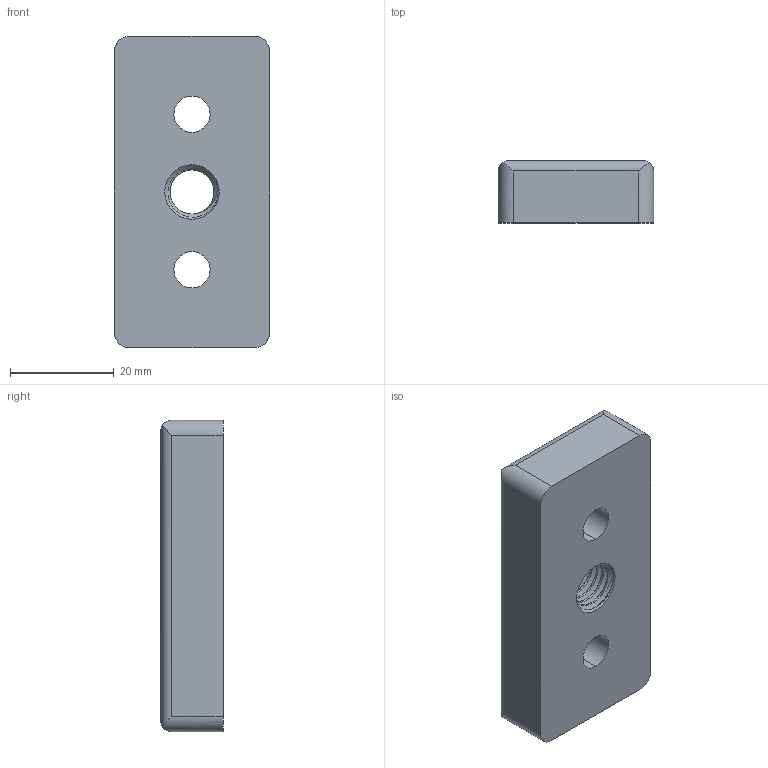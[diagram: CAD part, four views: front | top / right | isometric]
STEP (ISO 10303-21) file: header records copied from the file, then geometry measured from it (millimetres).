
FILE_DESCRIPTION (( 'STEP AP203' ), '1' );
FILE_NAME ('503225_Transport- u. Fußplatte 6 ZN 30x60 M10.step', '2022-08-02T06:32:52', ( '' ), ( '' ), 'SwSTEP 2.0', 'SolidWorks 2021', '' );
FILE_SCHEMA (( 'CONFIG_CONTROL_DESIGN' ));
Length unit declared in the file: millimetre
Products named in the file (1): 503225_Transport- u. Fußplatte 6 ZN 30x60 M10
Bounding box: 30 x 12 x 60 mm (x, y, z)
Volume: 18815.8 mm3; surface area: 6449 mm2
Topology: 1 solids, 1 shells, 51 faces, 136 edges, 89 vertices
Faces by surface type: cylinder 31, plane 8, cone 5, torus 4, bspline 3
Entity records: 5037 total; most frequent: CARTESIAN_POINT 3780, ORIENTED_EDGE 272, DIRECTION 215, EDGE_CURVE 136, VERTEX_POINT 89, AXIS2_PLACEMENT_3D 84, EDGE_LOOP 59, ADVANCED_FACE 51
